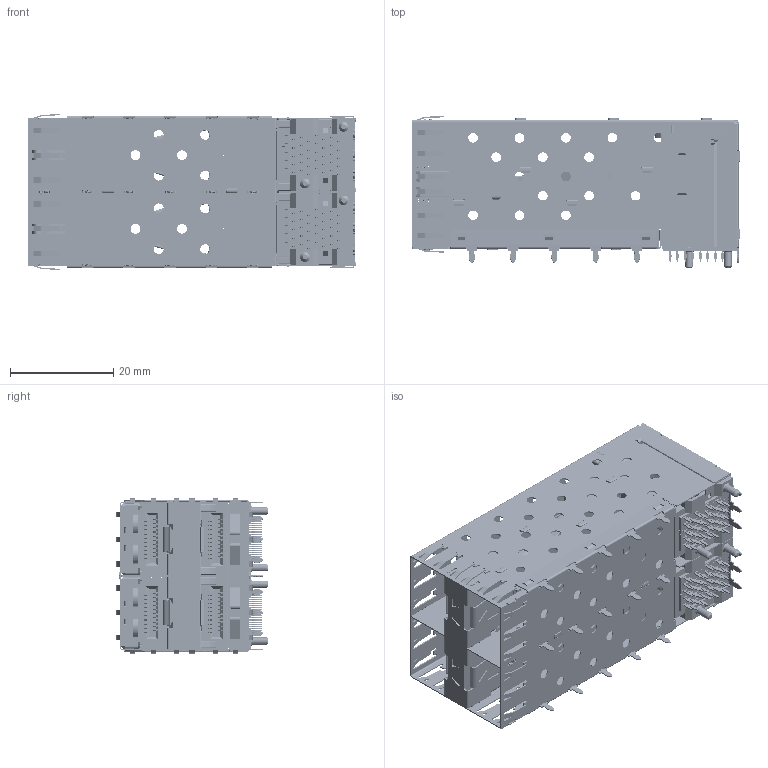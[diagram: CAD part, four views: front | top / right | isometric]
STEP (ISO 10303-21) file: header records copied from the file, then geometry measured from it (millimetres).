
FILE_DESCRIPTION (( 'STEP AP214' ), '1' );
FILE_NAME ('SSB0-3000310200-0000-X.STEP', '2021-07-14T01:30:53', ( '' ), ( '' ), 'SwSTEP 2.0', 'SolidWorks 2012', '' );
FILE_SCHEMA (( 'AUTOMOTIVE_DESIGN' ));
Length unit declared in the file: millimetre
Products named in the file (42): SSD0-P140_for 4Lightpipe-LED高度0.6 max(亮面+套筒); SSD0-P150; SSA0-M210-P_C TYPE; SSA0-M130 Conn+Lightpipe Ass''y-1_«È¤á3D DU Inner Lightpipe; SSA0-C110_SSA0-C11001XX 客戶3D-Type B-GND; SSA0-M220-P_D TYPE; SSA0-M210_SSA0-M21000XX 客戶3D-Type A-XIN; SSA0-C110_SSA0-C11002XX 客戶3D-Type C-XIN; SSA0-M220_SSA0-M22001XX 客戶3D-Type B-GND; SBB0-M110-1_pressfit 1.05-2.25-legs5-UD Inner lightpipe; SSA0-M210-P; SSA0-C110_SSA0-C11000XX 客戶3D-Type A-GND; SBD0-S130-1_pressfit 1.05-2.25-Legs5-ass''y; SSA0-P110; SBA0-S130_組裝; SSA0-C110_SSA0-C11003XX 客戶3D-Type D-XIN; SBD0-S140_w\UD Innerlightpipe-right ass''y; SBD0-S140_w\UD Innerlightpipe-left ass''y; SSA0-M220_SSA0-M22000XX 客戶3D-Type A-GND; SSA0-M220-P; SBB0-S110-1_2.25-Legs16-SFP hole+panel spring ass''y; SSA0-M210_SSA0-M21001XX 客戶3D-Type B-XIN; SBB0-S120-1_SFP; SSB0-3000310200-0000-X
Assembly tree (42 placements, depth 4):
  SSB0-3000310200-0000-X
    SBB0-S110-1_2.25-Legs16-SFP hole+panel spring ass''y
    SBB0-M110-1_pressfit 1.05-2.25-legs5-UD Inner lightpipe
      SBD0-S130-1_pressfit 1.05-2.25-Legs5-ass''y
      SBD0-S140_w\UD Innerlightpipe-left ass''y
      SBD0-S140_w\UD Innerlightpipe-right ass''y
    SBB0-S120-1_SFP
    SSA0-M130 Conn+Lightpipe Ass''y-1_«È¤á3D DU Inner Lightpipe  x2
      SSA0-P110
      SBA0-S130_組裝
      SSA0-M220_SSA0-M22000XX 客戶3D-Type A-GND
        SSA0-M220-P
        SSA0-C110_SSA0-C11000XX 客戶3D-Type A-GND
      SSA0-M210_SSA0-M21001XX 客戶3D-Type B-XIN
        SSA0-M210-P
        SSA0-C110_SSA0-C11003XX 客戶3D-Type D-XIN
      SSA0-M210_SSA0-M21000XX 客戶3D-Type A-XIN
        SSA0-M210-P_C TYPE
        SSA0-C110_SSA0-C11002XX 客戶3D-Type C-XIN
      SSA0-M220_SSA0-M22001XX 客戶3D-Type B-GND
        SSA0-M220-P_D TYPE
        SSA0-C110_SSA0-C11001XX 客戶3D-Type B-GND
      SSA0-M210_SSA0-M21000XX 客戶3D-Type A-XIN
        SSA0-M210-P_C TYPE
        SSA0-C110_SSA0-C11002XX 客戶3D-Type C-XIN
      SSA0-M210_SSA0-M21001XX 客戶3D-Type B-XIN
        SSA0-M210-P
        SSA0-C110_SSA0-C11003XX 客戶3D-Type D-XIN
      SSA0-M220_SSA0-M22000XX 客戶3D-Type A-GND
        SSA0-M220-P
        SSA0-C110_SSA0-C11000XX 客戶3D-Type A-GND
      SSA0-M210_SSA0-M21001XX 客戶3D-Type B-XIN
        SSA0-M210-P
        SSA0-C110_SSA0-C11003XX 客戶3D-Type D-XIN
      SSA0-M210_SSA0-M21000XX 客戶3D-Type A-XIN
        SSA0-M210-P_C TYPE
        SSA0-C110_SSA0-C11002XX 客戶3D-Type C-XIN
      SSA0-M220_SSA0-M22001XX 客戶3D-Type B-GND
        SSA0-M220-P_D TYPE
        SSA0-C110_SSA0-C11001XX 客戶3D-Type B-GND
      SSD0-P140_for 4Lightpipe-LED高度0.6 max(亮面+套筒)
      SSD0-P150
Bounding box: 63.5 x 29.51 x 30.25 mm (x, y, z)
Volume: 10622.6 mm3; surface area: 44966 mm2
Topology: 253 solids, 253 shells, 16248 faces, 43714 edges, 27816 vertices
Faces by surface type: plane 11118, cylinder 4772, bspline 230, torus 72, cone 56
Entity records: 329220 total; most frequent: CARTESIAN_POINT 65254, ORIENTED_EDGE 55300, DIRECTION 53958, EDGE_CURVE 27650, VECTOR 20174, LINE 20174, VERTEX_POINT 17620, AXIS2_PLACEMENT_3D 16892
